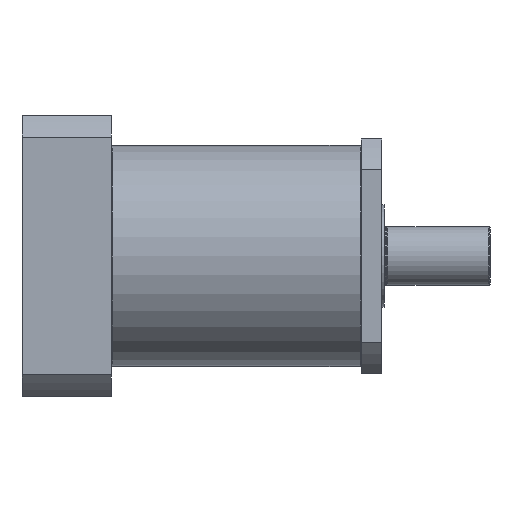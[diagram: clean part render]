
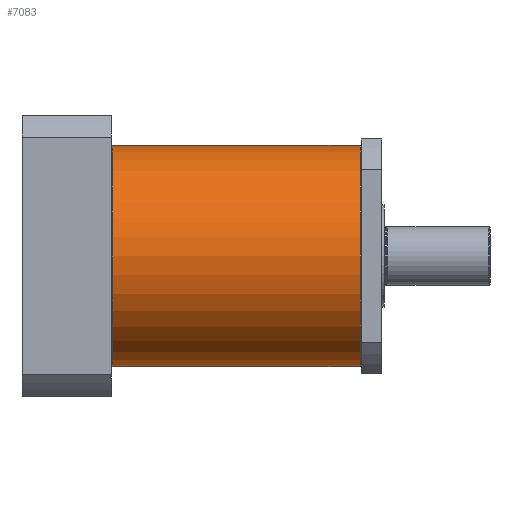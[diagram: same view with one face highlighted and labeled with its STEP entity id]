
A CAD part, front view. The second image highlights one B-rep face of the part: STEP entity #7083.
In plain terms, the highlighted cylindrical face has radius 60 mm (diameter 120 mm), a partial arc.
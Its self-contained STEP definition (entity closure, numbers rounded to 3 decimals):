
#1010 = VERTEX_POINT ( 'NONE', #12715 ) ;
#1526 = CYLINDRICAL_SURFACE ( 'NONE', #20193, 60. ) ;
#2307 = VECTOR ( 'NONE', #17505, 1000. ) ;
#2417 = VECTOR ( 'NONE', #20191, 1000. ) ;
#2915 = LINE ( 'NONE', #5384, #2417 ) ;
#3211 = CARTESIAN_POINT ( 'NONE',  ( 0.5, 0., 0. ) ) ;
#4095 = CIRCLE ( 'NONE', #18356, 60. ) ;
#4142 = AXIS2_PLACEMENT_3D ( 'NONE', #3211, #13804, #24654 ) ;
#4206 = VERTEX_POINT ( 'NONE', #15529 ) ;
#5384 = CARTESIAN_POINT ( 'NONE',  ( 52.368, 0., 60. ) ) ;
#7083 = ADVANCED_FACE ( 'NONE', ( #19084 ), #1526, .T. ) ;
#7451 = DIRECTION ( 'NONE',  ( 0., 0., 1. ) ) ;
#7765 = ORIENTED_EDGE ( 'NONE', *, *, #19920, .T. ) ;
#8195 = ORIENTED_EDGE ( 'NONE', *, *, #25187, .T. ) ;
#8984 = EDGE_CURVE ( 'NONE', #26149, #1010, #2915, .T. ) ;
#9943 = CIRCLE ( 'NONE', #4142, 60. ) ;
#12715 = CARTESIAN_POINT ( 'NONE',  ( 135., 0., 60. ) ) ;
#13220 = DIRECTION ( 'NONE',  ( 1., 0., 0. ) ) ;
#13804 = DIRECTION ( 'NONE',  ( 1., 0., 0. ) ) ;
#14470 = VERTEX_POINT ( 'NONE', #17597 ) ;
#14888 = ORIENTED_EDGE ( 'NONE', *, *, #23517, .T. ) ;
#15529 = CARTESIAN_POINT ( 'NONE',  ( 135., 0., -60. ) ) ;
#17505 = DIRECTION ( 'NONE',  ( 1., 0., 0. ) ) ;
#17597 = CARTESIAN_POINT ( 'NONE',  ( 0.5, 0., -60. ) ) ;
#18356 = AXIS2_PLACEMENT_3D ( 'NONE', #26829, #26697, #7451 ) ;
#19084 = FACE_OUTER_BOUND ( 'NONE', #23736, .T. ) ;
#19920 = EDGE_CURVE ( 'NONE', #4206, #1010, #4095, .T. ) ;
#20191 = DIRECTION ( 'NONE',  ( 1., 0., 0. ) ) ;
#20193 = AXIS2_PLACEMENT_3D ( 'NONE', #26408, #13220, #21445 ) ;
#21445 = DIRECTION ( 'NONE',  ( 0., 0., -1. ) ) ;
#21793 = CARTESIAN_POINT ( 'NONE',  ( 52.368, 0., -60. ) ) ;
#22077 = CARTESIAN_POINT ( 'NONE',  ( 0.5, 0., 60. ) ) ;
#23517 = EDGE_CURVE ( 'NONE', #14470, #4206, #25022, .T. ) ;
#23642 = ORIENTED_EDGE ( 'NONE', *, *, #8984, .F. ) ;
#23736 = EDGE_LOOP ( 'NONE', ( #23642, #8195, #14888, #7765 ) ) ;
#24654 = DIRECTION ( 'NONE',  ( 0., 0., -1. ) ) ;
#25022 = LINE ( 'NONE', #21793, #2307 ) ;
#25187 = EDGE_CURVE ( 'NONE', #26149, #14470, #9943, .T. ) ;
#26149 = VERTEX_POINT ( 'NONE', #22077 ) ;
#26408 = CARTESIAN_POINT ( 'NONE',  ( 52.368, 0., 0. ) ) ;
#26697 = DIRECTION ( 'NONE',  ( -1., 0., 0. ) ) ;
#26829 = CARTESIAN_POINT ( 'NONE',  ( 135., 0., 0. ) ) ;
